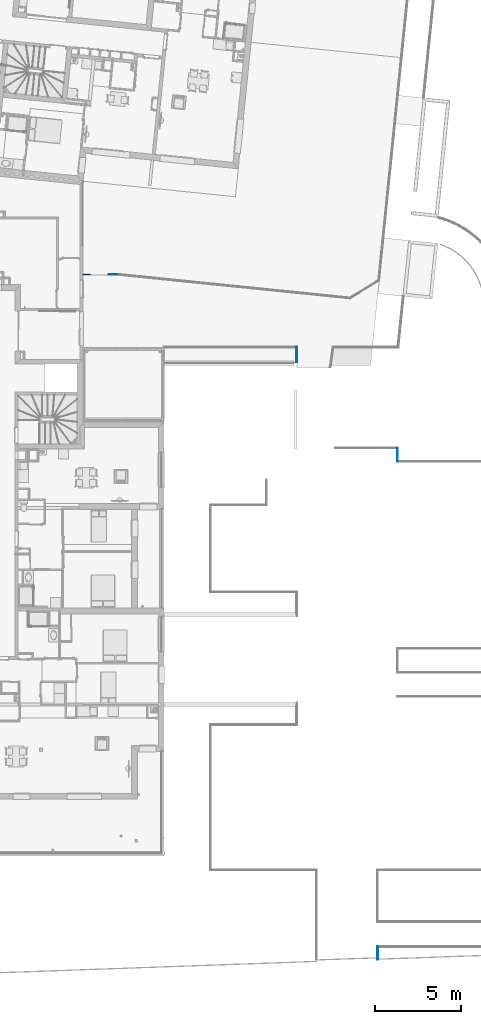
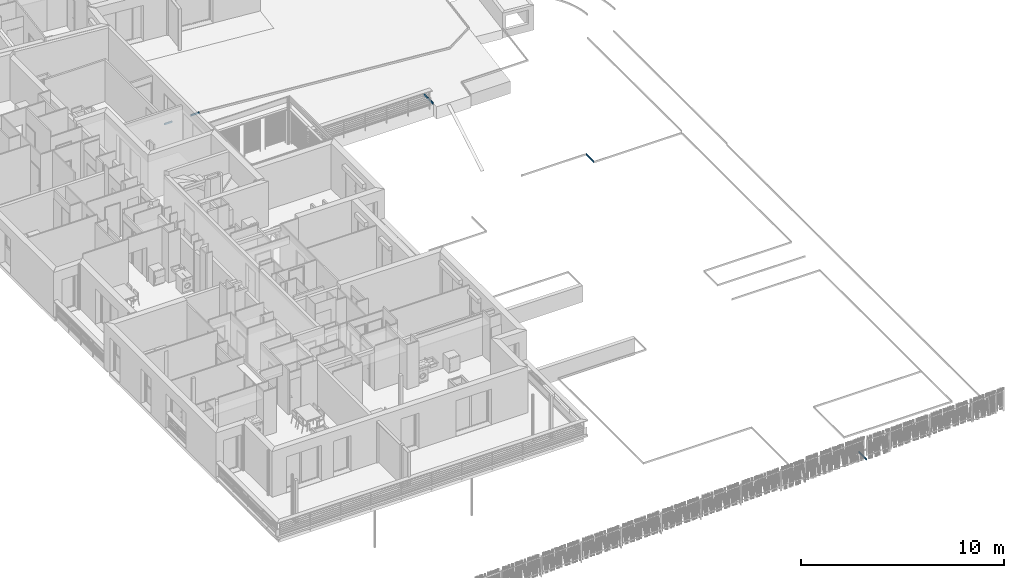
# One storey, part 86 of 171: 5 walls.
"""IFC2X3 building model written with IfcOpenShell, lengths in millimetres."""

from ifc_helpers import new_model, entity, si_unit, converted_unit, derived_unit, money_unit, direction, frame, origin_with_axes, place, context, subcontext, project, spatial, polyline, outline, extrude, material, layer, layer_set, layer_usage, type_object, element, save


model = new_model("IFC2X3")

# Units and contexts
model_context = context("Model", 3, precision=0.01, world=origin_with_axes(), true_north=direction((0.0, 1.0)))
body_context = subcontext(model_context, "Body", "Model", "MODEL_VIEW")
ifc_project = project(units=[si_unit("LENGTHUNIT", "METRE", prefix="MILLI"), si_unit("AREAUNIT", "SQUARE_METRE"), si_unit("VOLUMEUNIT", "CUBIC_METRE"), converted_unit("PLANEANGLEUNIT", "DEGREE", entity("IfcPlaneAngleMeasure", 0.0174532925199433), si_unit("PLANEANGLEUNIT", "RADIAN"), dimensions=[0, 0, 0, 0, 0, 0, 0]), money_unit("USD"), converted_unit("TIMEUNIT", "Year", entity("IfcTimeMeasure", 31557600.0), si_unit("TIMEUNIT", "SECOND"), dimensions=[0, 0, 1, 0, 0, 0, 0]), si_unit("MASSUNIT", "GRAM", prefix="KILO"), si_unit("THERMODYNAMICTEMPERATUREUNIT", "DEGREE_CELSIUS"), si_unit("LUMINOUSINTENSITYUNIT", "LUMEN"), si_unit("ENERGYUNIT", "JOULE", prefix="MEGA"), derived_unit("THERMALCONDUCTANCEUNIT", [(si_unit("POWERUNIT", "WATT"), 1), (si_unit("LENGTHUNIT", "METRE"), -1), (si_unit("THERMODYNAMICTEMPERATUREUNIT", "KELVIN"), -1)]), derived_unit("SPECIFICHEATCAPACITYUNIT", [(si_unit("ENERGYUNIT", "JOULE"), 1), (si_unit("MASSUNIT", "GRAM", prefix="KILO"), -1), (si_unit("THERMODYNAMICTEMPERATUREUNIT", "KELVIN"), -1)]), derived_unit("MASSDENSITYUNIT", [(si_unit("MASSUNIT", "GRAM", prefix="KILO"), 1), (si_unit("VOLUMEUNIT", "CUBIC_METRE"), -1)])], contexts=[model_context])

# Site, building, storey
site_placement = place(None, origin_with_axes())
site = spatial("IfcSite", under=ifc_project, at=site_placement, Name="Site", CompositionType="ELEMENT")
building_placement = place(site_placement, origin_with_axes())
building = spatial("IfcBuilding", under=site, at=building_placement, Name="Bâtiment", CompositionType="ELEMENT")
storey_placement = place(building_placement, frame((0.0, 0.0, 3000.0), z_axis=(0.0, 0.0, 1.0), x_axis=(1.0, 0.0, 0.0)))
storey = spatial("IfcBuildingStorey", under=building, at=storey_placement, Name="rdc", CompositionType="ELEMENT", Elevation=3000.0)

# Walls
ifc_material_1 = material(Name="Hachure solide 268963992")
ifc_layer_1 = layer(ifc_material_1, 50.0, ventilated="UNKNOWN")
ifc_layer_set_1 = layer_set([ifc_layer_1], Name="Cloison 50")
ifc_layer_usage_1 = layer_usage(ifc_layer_set_1, "AXIS2", "NEGATIVE", 50.0)
wall_type_1 = type_object("IfcWallType", Name="Cloison 50 50", PredefinedType="NOTDEFINED")
wall_1_placement = place(storey_placement, frame((2231153.475960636, -627438.39851156, 0.0), z_axis=(0.0, 0.0, 1.0), x_axis=(1.0, 5.954700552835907e-09, 0.0)))
element("IfcWallStandardCase", 1, at=wall_1_placement, inside=storey, type_object=wall_type_1, material=ifc_layer_usage_1, Name="Mur-149", context=body_context, shape_type="SweptSolid", body=[
    extrude(outline(polyline([(0.0, 0.0), (476.7510182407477, 0.0), (479.2848968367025, 49.99999999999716), (0.0, 49.99999999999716), (0.0, 0.0)])), origin_with_axes(), (0.0, 0.0, 1.0), 100.0),
])
ifc_layer_usage_2 = layer_usage(ifc_layer_set_1, "AXIS2", "POSITIVE", 0.0)
wall_2_placement = place(storey_placement, frame((2246706.657583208, -666352.7055840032, -2100.0), z_axis=(0.0, 0.0, 1.0), x_axis=(0.002480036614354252, -0.9999969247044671, 0.0)))
element("IfcWallStandardCase", 2, at=wall_2_placement, inside=storey, type_object=wall_type_1, material=ifc_layer_usage_2, Name="Mur-161", context=body_context, shape_type="SweptSolid", body=[
    extrude(outline(polyline([(0.0, 0.0), (770.0314579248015, -1.13686837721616e-10), (770.0314579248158, 49.99999999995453), (50.1241559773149, 49.99999999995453), (0.0, 0.0)])), origin_with_axes(), (0.0, 0.0, 1.0), 100.0),
])
ifc_layer_usage_3 = layer_usage(ifc_layer_set_1, "AXIS2", "NEGATIVE", 0.0)
wall_3_placement = place(storey_placement, frame((2242056.658568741, -631607.868107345, 0.0), z_axis=(0.0, 0.0, 1.0), x_axis=(-1.129536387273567e-06, -0.9999999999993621, 0.0)))
element("IfcWallStandardCase", 3, at=wall_3_placement, inside=storey, type_object=wall_type_1, material=ifc_layer_usage_3, Name="Mur-165", context=body_context, shape_type="SweptSolid", body=[
    extrude(outline(polyline([(0.0, -49.99999999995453), (901.7966449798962, -49.99999999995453), (901.7966449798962, 0.0), (0.0, 0.0), (0.0, -49.99999999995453)])), origin_with_axes(), (0.0, 0.0, 1.0), 100.0),
])
ifc_layer_usage_4 = layer_usage(ifc_layer_set_1, "AXIS2", "NEGATIVE", 50.0)
wall_4_placement = place(storey_placement, frame((2229653.476035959, -627438.3985204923, 0.0), z_axis=(0.0, 0.0, 1.0), x_axis=(1.0, 0.0, 0.0)))
element("IfcWallStandardCase", 4, at=wall_4_placement, inside=storey, type_object=wall_type_1, material=ifc_layer_usage_4, Name="Mur-149", context=body_context, shape_type="SweptSolid", body=[
    extrude(outline(polyline([(2.247020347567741e-06, 0.0), (435.0786023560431, 0.0), (435.0786023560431, 49.99999999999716), (2.2567974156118e-06, 49.99999999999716), (2.247020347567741e-06, 0.0)])), origin_with_axes(), (0.0, 0.0, 1.0), 100.0),
])
ifc_material_2 = material(Name="Empty Fill 292498448")
ifc_layer_2 = layer(ifc_material_2, 40.0, ventilated="UNKNOWN")
ifc_layer_set_2 = layer_set([ifc_layer_2], Name="mur 4cm")
ifc_layer_usage_5 = layer_usage(ifc_layer_set_2, "AXIS2", "POSITIVE", -40.0)
wall_type_2 = type_object("IfcWallType", Name="mur 4cm 40", PredefinedType="NOTDEFINED")
wall_5_placement = place(storey_placement, frame((2247856.657583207, -638264.8035284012, -2100.0), z_axis=(0.0, 0.0, 1.0), x_axis=(-0.0006011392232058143, 0.9999998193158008, 0.0)))
element("IfcWallStandardCase", 5, at=wall_5_placement, inside=storey, type_object=wall_type_2, material=ifc_layer_usage_5, Name="Mur-163", context=body_context, shape_type="SweptSolid", body=[
    extrude(outline(polyline([(39.97596165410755, -40.00000000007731), (818.5093090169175, -39.99999999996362), (778.5189370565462, 0.0), (0.0, 0.0), (39.97596165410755, -40.00000000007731)])), origin_with_axes(), (0.0, 0.0, 1.0), 100.0),
])

save(model, "model.ifc")
